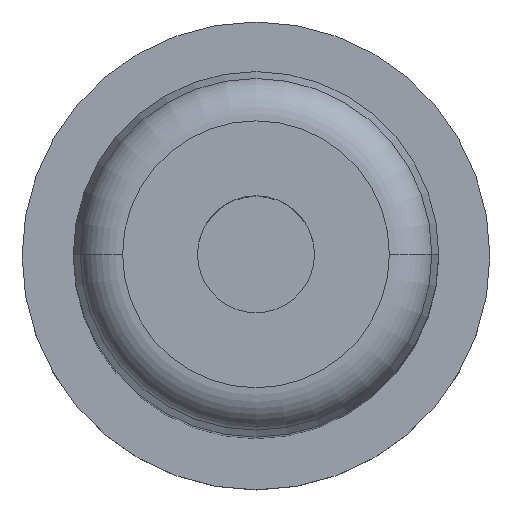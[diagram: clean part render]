
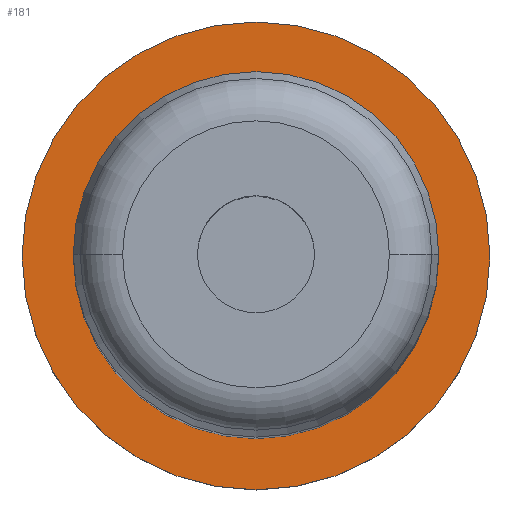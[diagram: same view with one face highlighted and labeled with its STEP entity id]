
A CAD part, top view. The second image highlights one B-rep face of the part: STEP entity #181.
In plain terms, the highlighted planar face has unit normal (0, 0, 1).
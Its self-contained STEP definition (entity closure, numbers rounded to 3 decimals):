
#111=FACE_BOUND('',#244,.T.);
#112=FACE_BOUND('',#245,.T.);
#181=ADVANCED_FACE('',(#111,#112),#201,.T.);
#201=PLANE('',#542);
#244=EDGE_LOOP('',(#311,#312));
#245=EDGE_LOOP('',(#313,#314));
#311=ORIENTED_EDGE('',*,*,#439,.F.);
#312=ORIENTED_EDGE('',*,*,#440,.F.);
#313=ORIENTED_EDGE('',*,*,#438,.T.);
#314=ORIENTED_EDGE('',*,*,#436,.T.);
#393=VERTEX_POINT('',#782);
#394=VERTEX_POINT('',#784);
#395=VERTEX_POINT('',#790);
#396=VERTEX_POINT('',#791);
#436=EDGE_CURVE('',#394,#393,#487,.T.);
#438=EDGE_CURVE('',#393,#394,#488,.T.);
#439=EDGE_CURVE('',#395,#396,#489,.T.);
#440=EDGE_CURVE('',#396,#395,#490,.T.);
#487=CIRCLE('',#536,11.5);
#488=CIRCLE('',#538,11.5);
#489=CIRCLE('',#540,16.);
#490=CIRCLE('',#541,16.);
#536=AXIS2_PLACEMENT_3D('',#783,#637,#638);
#538=AXIS2_PLACEMENT_3D('',#787,#642,#643);
#540=AXIS2_PLACEMENT_3D('',#789,#646,#647);
#541=AXIS2_PLACEMENT_3D('',#792,#648,#649);
#542=AXIS2_PLACEMENT_3D('',#793,#650,#651);
#637=DIRECTION('',(0.,0.,-1.));
#638=DIRECTION('',(0.,1.,0.));
#642=DIRECTION('',(0.,0.,-1.));
#643=DIRECTION('',(0.,-1.,0.));
#646=DIRECTION('',(0.,0.,-1.));
#647=DIRECTION('',(0.,1.,0.));
#648=DIRECTION('',(0.,0.,-1.));
#649=DIRECTION('',(0.,-1.,0.));
#650=DIRECTION('',(0.,0.,1.));
#651=DIRECTION('',(0.,-1.,0.));
#782=CARTESIAN_POINT('',(-11.5,0.,5.));
#783=CARTESIAN_POINT('',(0.,0.,5.));
#784=CARTESIAN_POINT('',(11.5,0.,5.));
#787=CARTESIAN_POINT('',(0.,0.,5.));
#789=CARTESIAN_POINT('',(0.,0.,5.));
#790=CARTESIAN_POINT('',(16.,0.,5.));
#791=CARTESIAN_POINT('',(-16.,0.,5.));
#792=CARTESIAN_POINT('',(0.,0.,5.));
#793=CARTESIAN_POINT('',(0.,0.,5.));
